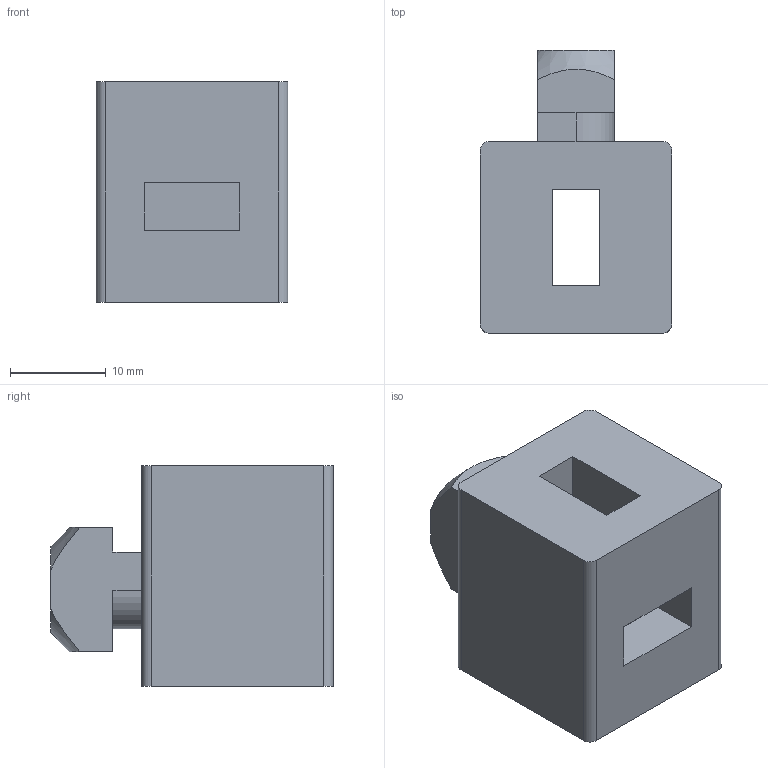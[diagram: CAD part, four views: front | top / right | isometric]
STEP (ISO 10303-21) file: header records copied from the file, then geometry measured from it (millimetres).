
FILE_DESCRIPTION (( 'STEP AP203' ), '1' );
FILE_NAME ('95-CE-PM-40G-B.STEP', '2015-07-09T08:35:03', ( '' ), ( '' ), 'SwSTEP 2.0', 'SolidWorks 2013', '' );
FILE_SCHEMA (( 'CONFIG_CONTROL_DESIGN' ));
Length unit declared in the file: millimetre
Products named in the file (1): 95-CE-PM-40G-B
Bounding box: 20 x 29.5 x 23 mm (x, y, z)
Volume: 8326.7 mm3; surface area: 3796.2 mm2
Topology: 1 solids, 1 shells, 35 faces, 99 edges, 66 vertices
Faces by surface type: plane 26, cylinder 6, cone 3
Entity records: 1254 total; most frequent: CARTESIAN_POINT 256, ORIENTED_EDGE 198, DIRECTION 179, EDGE_CURVE 99, VECTOR 77, LINE 77, VERTEX_POINT 66, AXIS2_PLACEMENT_3D 51
